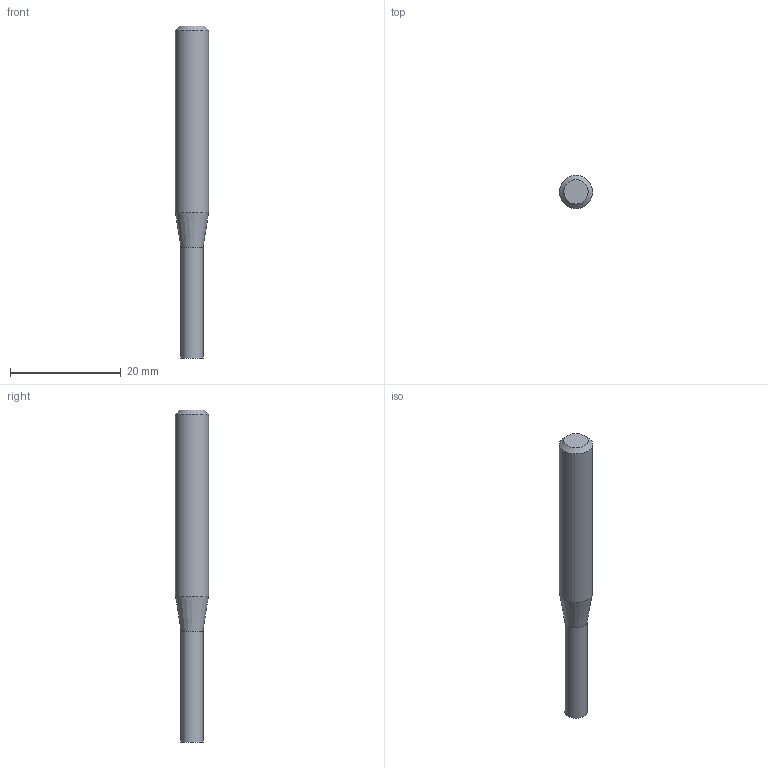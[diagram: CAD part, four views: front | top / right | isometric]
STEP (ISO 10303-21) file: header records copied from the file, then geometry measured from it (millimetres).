
FILE_DESCRIPTION((''),'2;1');
FILE_NAME('C:\Users\nsx150\AppData\Local\Temp\Mastercam 2021\W9Z147XDNF\TEMP.step','2021-04-08T14:49:43',(''),(''),'STEP Write','Mastercam 2021 ... CNC Software, Inc.','');
FILE_SCHEMA(('AUTOMOTIVE_DESIGN'));
Length unit declared in the file: millimetre
Products named in the file (1): None
Bounding box: 6 x 6 x 60 mm (x, y, z)
Volume: 1323.9 mm3; surface area: 1043 mm2
Topology: 2 solids, 2 shells, 8 faces, 10 edges, 6 vertices
Faces by surface type: plane 4, cylinder 2, cone 2
Full cylindrical faces by diameter (mm): 4 x1, 6 x1
Entity records: 190 total; most frequent: DIRECTION 32, CARTESIAN_POINT 22, AXIS2_PLACEMENT_3D 16, ORIENTED_EDGE 12, EDGE_LOOP 12, STYLED_ITEM 11, ADVANCED_FACE 8, VERTEX_POINT 6
